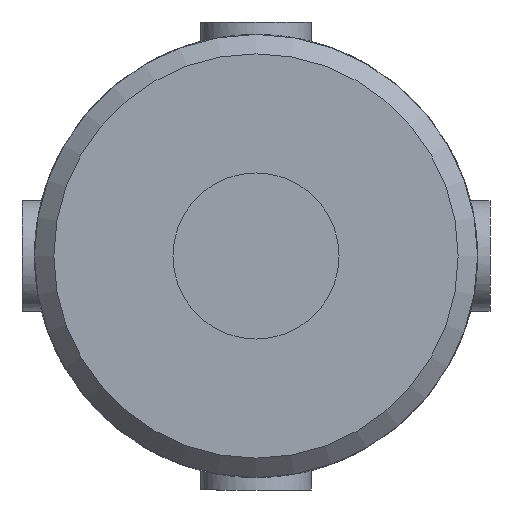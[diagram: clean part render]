
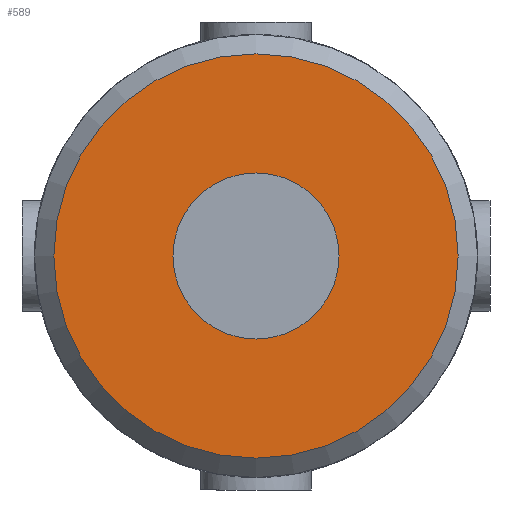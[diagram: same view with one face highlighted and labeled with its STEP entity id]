
A CAD part, front view. The second image highlights one B-rep face of the part: STEP entity #589.
In plain terms, the highlighted planar face has unit normal (0, -1, 0).
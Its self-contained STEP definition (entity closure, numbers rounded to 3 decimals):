
#121=PLANE('',#644);
#145=FACE_BOUND('',#221,.T.);
#168=FACE_OUTER_BOUND('',#220,.T.);
#220=EDGE_LOOP('',(#468));
#221=EDGE_LOOP('',(#469));
#257=CIRCLE('',#639,3.);
#259=CIRCLE('',#642,7.3);
#292=VERTEX_POINT('',#908);
#294=VERTEX_POINT('',#913);
#354=EDGE_CURVE('',#292,#292,#257,.T.);
#356=EDGE_CURVE('',#294,#294,#259,.T.);
#468=ORIENTED_EDGE('',*,*,#356,.F.);
#469=ORIENTED_EDGE('',*,*,#354,.T.);
#589=ADVANCED_FACE('',(#168,#145),#121,.F.);
#639=AXIS2_PLACEMENT_3D('',#909,#749,#750);
#642=AXIS2_PLACEMENT_3D('',#914,#755,#756);
#644=AXIS2_PLACEMENT_3D('',#1082,#763,#764);
#749=DIRECTION('center_axis',(0.,1.,0.));
#750=DIRECTION('ref_axis',(-1.,0.,0.));
#755=DIRECTION('center_axis',(0.,1.,0.));
#756=DIRECTION('ref_axis',(1.,0.,0.));
#763=DIRECTION('center_axis',(0.,1.,0.));
#764=DIRECTION('ref_axis',(0.,0.,1.));
#908=CARTESIAN_POINT('',(3.,-21.,0.));
#909=CARTESIAN_POINT('Origin',(0.,-21.,0.));
#913=CARTESIAN_POINT('',(-7.3,-21.,0.));
#914=CARTESIAN_POINT('Origin',(0.,-21.,0.));
#1082=CARTESIAN_POINT('Origin',(0.,-21.,0.));
